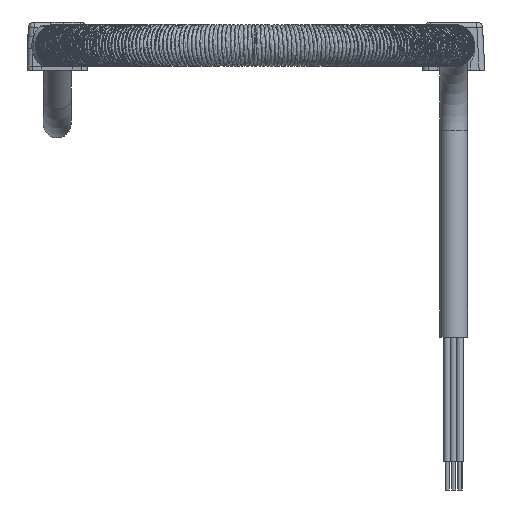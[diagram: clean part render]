
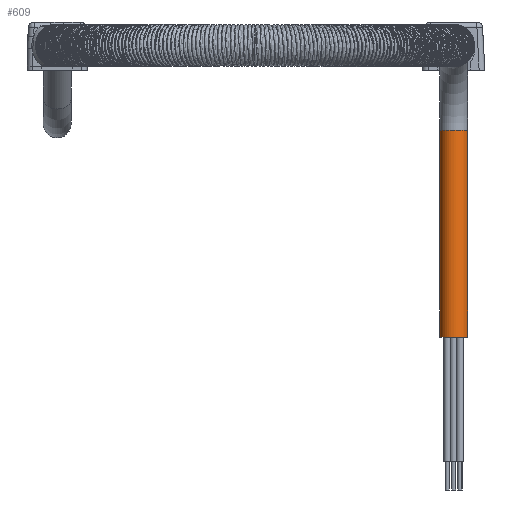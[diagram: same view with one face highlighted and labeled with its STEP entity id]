
A CAD part, front view. The second image highlights one B-rep face of the part: STEP entity #609.
In plain terms, the highlighted cylindrical face has radius 2.45 mm (diameter 4.9 mm), a full revolution.
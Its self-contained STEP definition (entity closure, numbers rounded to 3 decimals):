
#582=CARTESIAN_POINT('',(-70.,-9.5,214.868));
#583=DIRECTION('',(0.,0.,1.0));
#584=DIRECTION('',(0.5,-0.866,0.));
#585=AXIS2_PLACEMENT_3D('',#582,#583,#584);
#586=CYLINDRICAL_SURFACE('',#585,2.45);
#587=CARTESIAN_POINT('',(-70.,-11.95,-47.132));
#588=VERTEX_POINT('',#587);
#589=CARTESIAN_POINT('',(-70.,-9.5,-47.132));
#590=DIRECTION('',(0.,0.,1.0));
#591=DIRECTION('',(0.5,-0.866,0.));
#592=AXIS2_PLACEMENT_3D('',#589,#590,#591);
#593=CIRCLE('',#592,2.45);
#594=EDGE_CURVE('',#588,#588,#593,.T.);
#595=ORIENTED_EDGE('',*,*,#594,.T.);
#596=EDGE_LOOP('',(#595));
#597=FACE_OUTER_BOUND('',#596,.T.);
#598=CARTESIAN_POINT('',(-71.225,-7.378,-10.65));
#599=VERTEX_POINT('',#598);
#600=CARTESIAN_POINT('',(-70.,-9.5,-10.65));
#601=DIRECTION('',(0.,0.,-1.0));
#602=DIRECTION('',(0.5,-0.866,0.));
#603=AXIS2_PLACEMENT_3D('',#600,#601,#602);
#604=CIRCLE('',#603,2.45);
#605=EDGE_CURVE('',#599,#599,#604,.T.);
#606=ORIENTED_EDGE('',*,*,#605,.T.);
#607=EDGE_LOOP('',(#606));
#608=FACE_BOUND('',#607,.T.);
#609=ADVANCED_FACE('',(#597,#608),#586,.T.);
